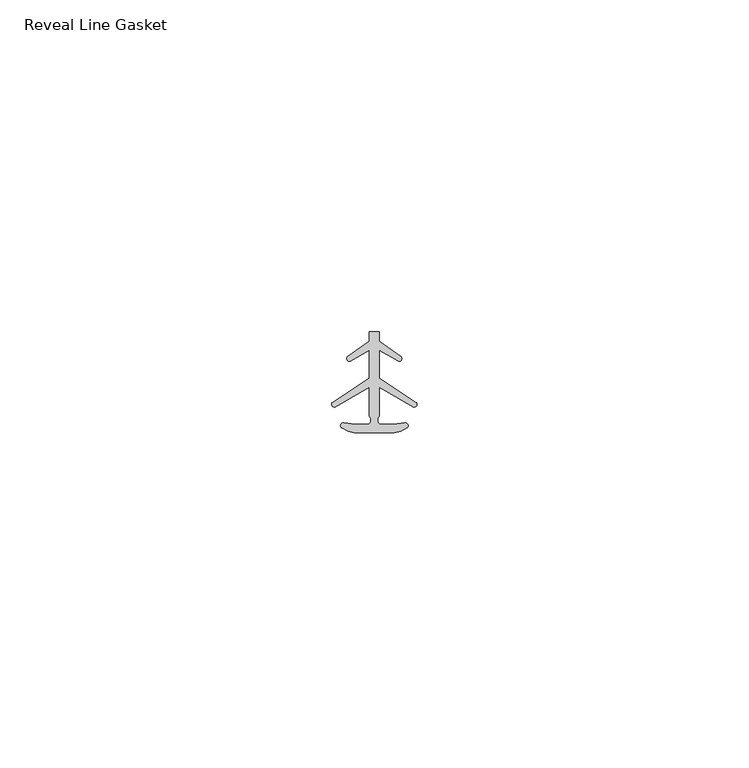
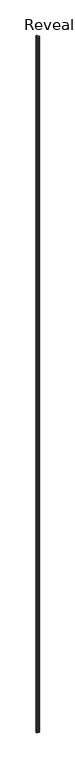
"""IFC4 building model written with IfcOpenShell, lengths in millimetres: proxy geometry, Accessories-Teknion-FHGR-AI_Healthcare-Reveal_Line_Gasket-R2021 : Reveal Line Gasket."""

import ifcopenshell
import ifcopenshell.guid

model = None  # the IFC model being written
_history = None  # IfcOwnerHistory: only IFC2X3 demands one
_inside = {}  # id of a spatial element -> (the spatial element, [elements in it])
_under = {}  # id of a project, library or spatial element -> (it, [spatial elements below it])
_declared = {}  # id of a project -> (the project, [libraries it declares])
_typed = {}  # id of a type object -> (the type object, [elements of that type])
_made_of = {}  # id of a material, layer set ... -> (it, [elements and type objects made of it])


def new_model(schema):
    """Start an empty IFC model of exactly this schema.

    Asked for "IFC4X3", IfcOpenShell would pick the latest addendum, in which some entities
    have other attributes; the version numbers below select the first issue.
    IFC2X3 requires an IfcOwnerHistory on every rooted entity: one is made here for all.
    """
    global model, _history
    if schema == "IFC4X3":
        model = ifcopenshell.file(schema_version=(4, 3, 0, 0))
    else:
        model = ifcopenshell.file(schema=schema)
    _inside.clear()
    _under.clear()
    _declared.clear()
    _typed.clear()
    _made_of.clear()
    _history = None
    if model.schema == "IFC2X3":
        org = make("IfcOrganization", Name="unknown")
        user = make(
            "IfcPersonAndOrganization",
            ThePerson=make("IfcPerson", FamilyName="unknown"),
            TheOrganization=org,
        )
        app = make(
            "IfcApplication",
            ApplicationDeveloper=org,
            Version="unknown",
            ApplicationFullName="unknown",
            ApplicationIdentifier="unknown",
        )
        _history = make(
            "IfcOwnerHistory",
            OwningUser=user,
            OwningApplication=app,
            ChangeAction="ADDED",
            CreationDate=0,
        )
    return model


def make(cls, **values):
    """One entity of the class cls with the attributes given. An attribute that is None is left unset."""
    return model.create_entity(
        cls, **{name: value for name, value in values.items() if value is not None}
    )


def rooted(cls, **values):
    """An entity with a GlobalId (a new one), such as an element, a storey or a relation."""
    return make(cls, GlobalId=ifcopenshell.guid.new(), OwnerHistory=_history, **values)


def si_unit(unit_type, name, prefix=None):
    """IfcSIUnit, for example si_unit("LENGTHUNIT", "METRE", prefix="MILLI")."""
    return make("IfcSIUnit", UnitType=unit_type, Prefix=prefix, Name=name)


def assignment(units):
    """IfcUnitAssignment: the units of a project."""
    return None if units is None else make("IfcUnitAssignment", Units=units)


def point(xyz):
    """IfcCartesianPoint."""
    return None if xyz is None else make("IfcCartesianPoint", Coordinates=xyz)


def direction(xyz):
    """IfcDirection."""
    return None if xyz is None else make("IfcDirection", DirectionRatios=xyz)


def frame(location, z_axis=None, x_axis=None):
    """IfcAxis2Placement3D, a coordinate frame: its origin and axes. An axis left out is left unset."""
    return make(
        "IfcAxis2Placement3D",
        Location=point(location),
        Axis=direction(z_axis),
        RefDirection=direction(x_axis),
    )


def frame_2d(location, x_axis=None):
    """IfcAxis2Placement2D, a coordinate frame in the plane: its origin and x axis."""
    return make(
        "IfcAxis2Placement2D", Location=point(location), RefDirection=direction(x_axis)
    )


def origin():
    """The frame at (0, 0, 0) with its axes left unset."""
    return frame((0.0, 0.0, 0.0))


def place(relative_to, where):
    """IfcLocalPlacement: puts the frame where relative to a parent placement (None: the world)."""
    return make(
        "IfcLocalPlacement", PlacementRelTo=relative_to, RelativePlacement=where
    )


def context(
    kind, dimensions, precision=None, world=None, true_north=None, identifier=None
):
    """IfcGeometricRepresentationContext, for example the 3D "Model" context."""
    return make(
        "IfcGeometricRepresentationContext",
        ContextIdentifier=identifier,
        ContextType=kind,
        CoordinateSpaceDimension=dimensions,
        Precision=precision,
        WorldCoordinateSystem=world,
        TrueNorth=true_north,
    )


def project(units=None, contexts=None):
    """IfcProject with its units and contexts."""
    return rooted(
        "IfcProject",
        Name="project",
        RepresentationContexts=contexts,
        UnitsInContext=assignment(units),
    )


def spatial(cls, under=None, at=None, **own):
    """A site, building, storey or space (cls), placed at a placement, below another one or the project."""
    s = rooted(cls, ObjectPlacement=at, **own)
    if under is not None:
        _under.setdefault(under.id(), (under, []))[1].append(s)
    return s


def polyline(points):
    """IfcPolyline through the points."""
    return make("IfcPolyline", Points=[point(p) for p in points])


def circle_curve(where, radius):
    """IfcCircle in the frame where."""
    return make("IfcCircle", Position=where, Radius=radius)


def trimmed(basis, trim1, trim2, sense, master):
    """IfcTrimmedCurve: the piece of a basis curve between two trims."""
    return make(
        "IfcTrimmedCurve",
        BasisCurve=basis,
        Trim1=trim1,
        Trim2=trim2,
        SenseAgreement=sense,
        MasterRepresentation=master,
    )


def segment(curve, same_sense, transition):
    """IfcCompositeCurveSegment."""
    return make(
        "IfcCompositeCurveSegment",
        Transition=transition,
        SameSense=same_sense,
        ParentCurve=curve,
    )


def composite_curve(segments, self_intersect=None):
    """IfcCompositeCurve: segments joined end to end."""
    return make("IfcCompositeCurve", Segments=segments, SelfIntersect=self_intersect)


def outline(outer, holes=None, kind="AREA"):
    """IfcArbitraryClosedProfileDef: a profile drawn as a closed curve; with holes, ...WithVoids."""
    if holes is None:
        return make("IfcArbitraryClosedProfileDef", ProfileType=kind, OuterCurve=outer)
    return make(
        "IfcArbitraryProfileDefWithVoids",
        ProfileType=kind,
        OuterCurve=outer,
        InnerCurves=holes,
    )


def extrude(swept, where, along, depth):
    """IfcExtrudedAreaSolid: the profile swept, set in the frame where, extruded along a direction by depth."""
    return make(
        "IfcExtrudedAreaSolid",
        SweptArea=swept,
        Position=where,
        ExtrudedDirection=direction(along),
        Depth=depth,
    )


def shape(context_of_items, identifier, shape_type, items):
    """IfcShapeRepresentation: the items that make up one representation, for example the "Body"."""
    return make(
        "IfcShapeRepresentation",
        ContextOfItems=context_of_items,
        RepresentationIdentifier=identifier,
        RepresentationType=shape_type,
        Items=items,
    )


def source(mapping_origin, context_of_items, identifier, shape_type, items):
    """IfcRepresentationMap: a shape defined once, which mapped items show again and again."""
    return make(
        "IfcRepresentationMap",
        MappingOrigin=mapping_origin,
        MappedRepresentation=shape(context_of_items, identifier, shape_type, items),
    )


def transform(
    local_origin,
    x_axis=None,
    y_axis=None,
    z_axis=None,
    scale=None,
    scale2=None,
    scale3=None,
    uniform=True,
):
    """IfcCartesianTransformationOperator3D, or its non-uniform kind. x_axis, y_axis, z_axis: its Axis1, 2, 3."""
    if uniform:
        return make(
            "IfcCartesianTransformationOperator3D",
            Axis1=direction(x_axis),
            Axis2=direction(y_axis),
            LocalOrigin=point(local_origin),
            Scale=scale,
            Axis3=direction(z_axis),
        )
    return make(
        "IfcCartesianTransformationOperator3DnonUniform",
        Axis1=direction(x_axis),
        Axis2=direction(y_axis),
        LocalOrigin=point(local_origin),
        Scale=scale,
        Axis3=direction(z_axis),
        Scale2=scale2,
        Scale3=scale3,
    )


def mapped(mapping_source, mapping_target):
    """IfcMappedItem: shows the shape of a source again, moved by a transform."""
    return make(
        "IfcMappedItem", MappingSource=mapping_source, MappingTarget=mapping_target
    )


def made_of(thing, what):
    """Note that an element or type object is made of a material, layer set ...; save() writes the relation."""
    if what is not None:
        _made_of.setdefault(what.id(), (what, []))[1].append(thing)
    return thing


def element(
    cls,
    number,
    at=None,
    inside=None,
    cuts=None,
    type_object=None,
    material=None,
    context=None,
    identifier="Body",
    shape_type=None,
    held_by="IfcProductDefinitionShape",
    body=None,
    shapes=None,
    **own,
):
    """One element of the class cls, such as IfcWall. Its Tag is "e" and its number.

    at: its placement. inside: the storey or other place that contains it. cuts: it is an
    opening in that element (IfcRelVoidsElement). A single representation is given by context,
    identifier, shape_type and body (its items); several are given by shapes. held_by: the class
    of the entity that holds the representations. save() writes the other relations.
    """
    e = rooted(cls, Tag="e%d" % number, ObjectPlacement=at, **own)
    if body is not None:
        shapes = [shape(context, identifier, shape_type, body)]
    if shapes is not None:
        e.Representation = make(held_by, Representations=shapes)
    if inside is not None:
        _inside.setdefault(inside.id(), (inside, []))[1].append(e)
    if cuts is not None:
        rooted(
            "IfcRelVoidsElement", RelatingBuildingElement=cuts, RelatedOpeningElement=e
        )
    if type_object is not None:
        _typed.setdefault(type_object.id(), (type_object, []))[1].append(e)
    return made_of(e, material)


def aggregate(whole, parts):
    """IfcRelAggregates: a whole, such as a stair, and the parts it consists of."""
    return rooted("IfcRelAggregates", RelatingObject=whole, RelatedObjects=parts)


def save(model, path):
    """Write the relations noted so far, then the file.

    IfcRelAggregates (storeys below a building ...), IfcRelContainedInSpatialStructure (elements
    in a storey), IfcRelDefinesByType, IfcRelAssociatesMaterial and IfcRelDeclares: one each for
    every whole, place, type object, material and project.
    """
    for whole, parts in _under.values():
        aggregate(whole, parts)
    for where, things in _inside.values():
        rooted(
            "IfcRelContainedInSpatialStructure",
            RelatedElements=things,
            RelatingStructure=where,
        )
    for kind, things in _typed.values():
        rooted("IfcRelDefinesByType", RelatedObjects=things, RelatingType=kind)
    for what, things in _made_of.values():
        rooted("IfcRelAssociatesMaterial", RelatedObjects=things, RelatingMaterial=what)
    for by, libraries in _declared.values():
        rooted("IfcRelDeclares", RelatingContext=by, RelatedDefinitions=libraries)
    model.write(path)


def reveal_line_gasket_56e0f3a5(model_context):
    return source(origin(), model_context, "Body", "SweptSolid", [
        extrude(outline(composite_curve([segment(polyline([(2.999107, -7.6326998), (-3.000893, -7.6326998), (-3.9563857, -7.4091917), (-4.8893614, -6.8813059)]), True, "CONTINUOUS"), segment(trimmed(circle_curve(frame_2d((-4.6873723, -6.5243141)), 0.4101739), [point((-4.8893614, -6.8813059))], [point((-4.5950277, -6.1246704))], False, "CARTESIAN"), True, "CONTINUOUS"), segment(polyline([(-4.5950277, -6.1246704), (-2.8988015, -6.3626997), (-0.8663457, -6.3626997)]), True, "CONTINUOUS"), segment(trimmed(circle_curve(frame_2d((-1.2828188, -5.6959605)), 0.786124), [point((-0.8663457, -6.3626997))], [point((-0.778768, -5.0926996))], True, "CARTESIAN"), True, "CONTINUOUS"), segment(polyline([(-0.778768, -5.0926996), (-0.778768, -0.7492996), (-5.9404224, -3.7293824)]), True, "CONTINUOUS"), segment(trimmed(circle_curve(frame_2d((-6.0058691, -3.3132479)), 0.4212495), [point((-5.9404224, -3.7293824))], [point((-6.3335288, -3.0485022))], False, "CARTESIAN"), True, "CONTINUOUS"), segment(polyline([(-6.3335288, -3.0485022), (-0.778768, 0.5742594), (-0.778768, 4.8262978), (-3.6544226, 3.1660374)]), True, "CONTINUOUS"), segment(trimmed(circle_curve(frame_2d((-3.7127785, 3.5978728)), 0.4357605), [point((-3.6544226, 3.1660374))], [point((-4.0575811, 3.864328))], False, "CARTESIAN"), True, "CONTINUOUS"), segment(polyline([(-4.0575811, 3.864328), (-0.778768, 6.1944059), (-0.778768, 7.6326998), (0.7769821, 7.6326998), (0.7769821, 6.1944059), (4.0557951, 3.864328)]), True, "CONTINUOUS"), segment(trimmed(circle_curve(frame_2d((3.7109925, 3.5978728)), 0.4357605), [point((4.0557951, 3.864328))], [point((3.6526367, 3.1660374))], False, "CARTESIAN"), True, "CONTINUOUS"), segment(polyline([(3.6526367, 3.1660374), (0.7769821, 4.8262978), (0.7769821, 0.5742594), (6.3317429, -3.0485022)]), True, "CONTINUOUS"), segment(trimmed(circle_curve(frame_2d((6.0040832, -3.3132479)), 0.4212495), [point((6.3317429, -3.0485022))], [point((5.9386365, -3.7293824))], False, "CARTESIAN"), True, "CONTINUOUS"), segment(polyline([(5.9386365, -3.7293824), (0.7769821, -0.7492996), (0.7769821, -5.0926996)]), True, "CONTINUOUS"), segment(trimmed(circle_curve(frame_2d((1.2810328, -5.6959605)), 0.786124), [point((0.7769821, -5.0926996))], [point((0.8645598, -6.3626997))], True, "CARTESIAN"), True, "CONTINUOUS"), segment(polyline([(0.8645598, -6.3626997), (2.8970156, -6.3626997), (4.5932418, -6.1246704)]), True, "CONTINUOUS"), segment(trimmed(circle_curve(frame_2d((4.6855864, -6.5243141)), 0.4101739), [point((4.5932418, -6.1246704))], [point((4.8875754, -6.8813059))], False, "CARTESIAN"), True, "CONTINUOUS"), segment(polyline([(4.8875754, -6.8813059), (3.9545998, -7.4091917), (2.999107, -7.6326998)]), True, "CONTINUOUS")], self_intersect=False)), frame((0.0, 0.0, 84.836), z_axis=(0.0, 0.0, 1.0), x_axis=(1.0, 0.0, 0.0)), (0.0, 0.0, 1.0), 2953.7556989),
    ])


if __name__ == "__main__":
    model = new_model("IFC4")
    model_context = context("Model", 3, world=origin())
    ifc_project = project(units=[si_unit("LENGTHUNIT", "METRE", prefix="MILLI")], contexts=[model_context])
    site = spatial("IfcSite", under=ifc_project)
    building = spatial("IfcBuilding", under=site)
    placement = place(None, origin())
    reveal_line_gasket_shape = reveal_line_gasket_56e0f3a5(model_context)
    element("IfcBuildingElementProxy", 1, Name="Accessories-Teknion-FHGR-AI_Healthcare-Reveal_Line_Gasket-R2021 : Reveal Line Gasket", ObjectType="Accessories-Teknion-FHGR-AI_Healthcare-Reveal_Line_Gasket-R2021 : Reveal Line Gasket", at=placement, inside=building, context=model_context, shape_type="MappedRepresentation", body=[
        mapped(reveal_line_gasket_shape, transform((0.0, 0.0, 0.0), x_axis=(1.0, 0.0, 0.0), y_axis=(0.0, 1.0, 0.0), z_axis=(0.0, 0.0, 1.0))),
    ])
    save(model, "model.ifc")
